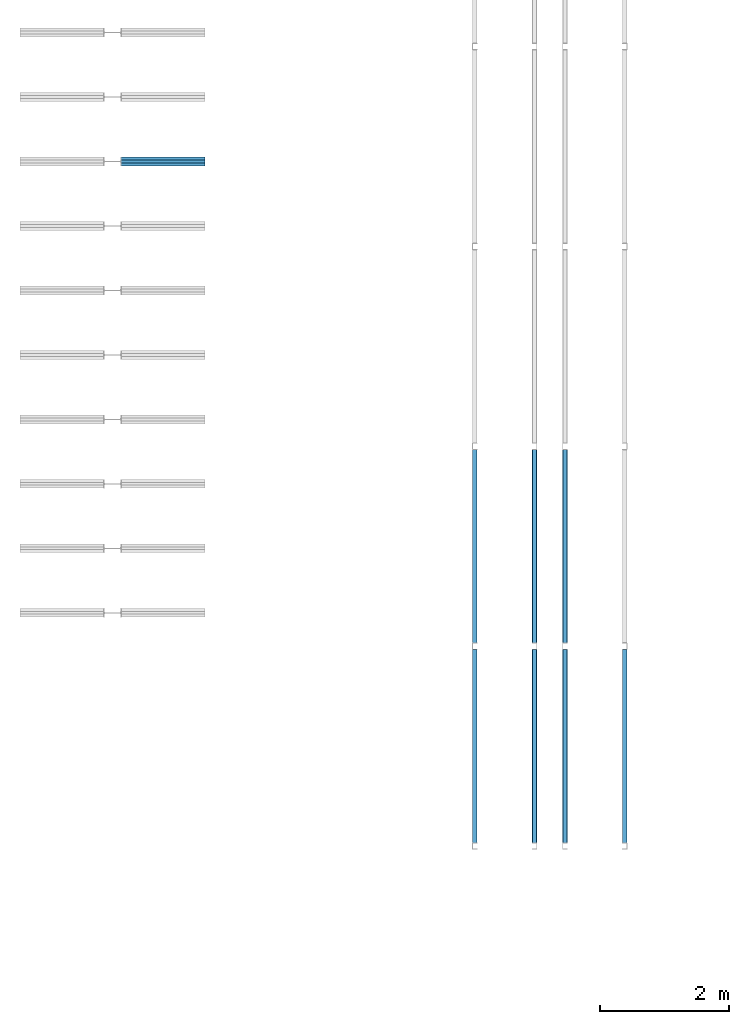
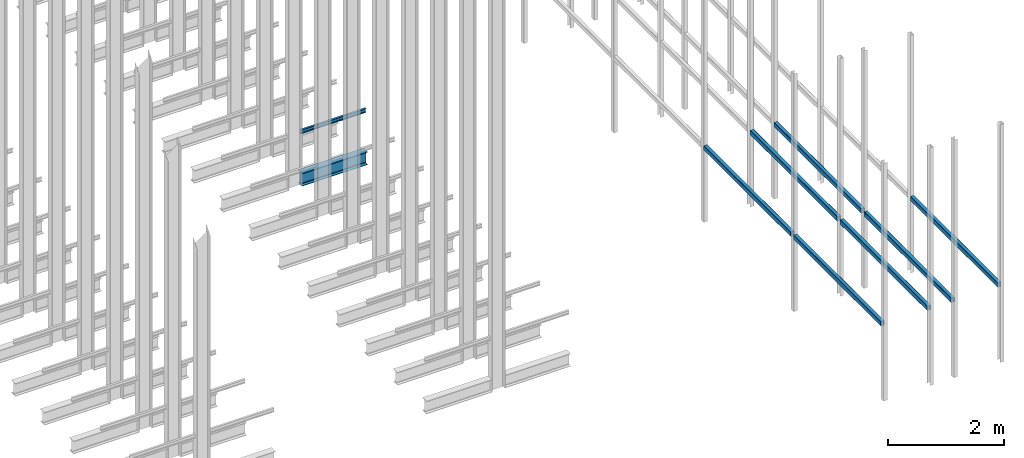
# One storey, part 163 of 302: 9 beams.
"""IFC2X3 building model written with IfcOpenShell, lengths in metres."""

from ifc_helpers import new_model, entity, si_unit, converted_unit, derived_unit, direction, frame, frame_2d, origin, place, context, subcontext, project, spatial, polyline, circle_curve, parameter, trimmed, segment, composite_curve, i_section, outline, extrude, material, type_object, element, save


model = new_model("IFC2X3")

# Units and contexts
model_context = context("Model", 3, precision=1e-05, world=origin(), true_north=direction((6.12303176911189e-17, 1.0)))
body_context = subcontext(model_context, "Body", "Model", "MODEL_VIEW")
ifc_project = project(units=[si_unit("LENGTHUNIT", "METRE"), si_unit("AREAUNIT", "SQUARE_METRE"), si_unit("VOLUMEUNIT", "CUBIC_METRE"), converted_unit("PLANEANGLEUNIT", "DEGREE", entity("IfcRatioMeasure", 0.0174532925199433), si_unit("PLANEANGLEUNIT", "RADIAN"), dimensions=[0, 0, 0, 0, 0, 0, 0]), si_unit("MASSUNIT", "GRAM", prefix="KILO"), derived_unit("MASSDENSITYUNIT", [(si_unit("MASSUNIT", "GRAM", prefix="KILO"), 1), (si_unit("LENGTHUNIT", "METRE"), -3)]), derived_unit("MOMENTOFINERTIAUNIT", [(si_unit("LENGTHUNIT", "METRE"), 4)]), si_unit("TIMEUNIT", "SECOND"), si_unit("FREQUENCYUNIT", "HERTZ"), si_unit("THERMODYNAMICTEMPERATUREUNIT", "DEGREE_CELSIUS"), derived_unit("THERMALTRANSMITTANCEUNIT", [(si_unit("MASSUNIT", "GRAM", prefix="KILO"), 1), (si_unit("THERMODYNAMICTEMPERATUREUNIT", "KELVIN"), -1), (si_unit("TIMEUNIT", "SECOND"), -3)]), derived_unit("VOLUMETRICFLOWRATEUNIT", [(si_unit("LENGTHUNIT", "METRE"), 3), (si_unit("TIMEUNIT", "SECOND"), -1)]), si_unit("ELECTRICCURRENTUNIT", "AMPERE"), si_unit("ELECTRICVOLTAGEUNIT", "VOLT"), si_unit("POWERUNIT", "WATT"), si_unit("FORCEUNIT", "NEWTON", prefix="KILO"), si_unit("ILLUMINANCEUNIT", "LUX"), si_unit("LUMINOUSFLUXUNIT", "LUMEN"), si_unit("LUMINOUSINTENSITYUNIT", "CANDELA"), derived_unit("USERDEFINED", [(si_unit("MASSUNIT", "GRAM", prefix="KILO"), -1), (si_unit("LENGTHUNIT", "METRE"), -2), (si_unit("TIMEUNIT", "SECOND"), 3), (si_unit("LUMINOUSFLUXUNIT", "LUMEN"), 1)]), derived_unit("LINEARVELOCITYUNIT", [(si_unit("LENGTHUNIT", "METRE"), 1), (si_unit("TIMEUNIT", "SECOND"), -1)]), si_unit("PRESSUREUNIT", "PASCAL"), derived_unit("USERDEFINED", [(si_unit("LENGTHUNIT", "METRE"), -2), (si_unit("MASSUNIT", "GRAM", prefix="KILO"), 1), (si_unit("TIMEUNIT", "SECOND"), -2)]), derived_unit("LINEARFORCEUNIT", [(si_unit("MASSUNIT", "GRAM", prefix="KILO"), 1), (si_unit("LENGTHUNIT", "METRE"), 1), (si_unit("TIMEUNIT", "SECOND"), -2), (si_unit("LENGTHUNIT", "METRE"), -1)]), derived_unit("PLANARFORCEUNIT", [(si_unit("MASSUNIT", "GRAM", prefix="KILO"), 1), (si_unit("LENGTHUNIT", "METRE"), 1), (si_unit("TIMEUNIT", "SECOND"), -2), (si_unit("LENGTHUNIT", "METRE"), -2)])], contexts=[model_context])

# Site, building, storey
site_placement = place(None, origin())
site = spatial("IfcSite", under=ifc_project, at=site_placement, Name="Default", CompositionType="ELEMENT")
building_placement = place(site_placement, origin())
building = spatial("IfcBuilding", under=site, at=building_placement, CompositionType="ELEMENT")
storey_placement = place(building_placement, frame((0.0, 0.0, -1.3)))
storey = spatial("IfcBuildingStorey", under=building, at=storey_placement, Name="00_EG", CompositionType="ELEMENT", Elevation=-1.3)

# Beams
ifc_material_1 = material(Name="Metall - Baustahl S235 blau")
beam_type_1 = type_object("IfcBeamType", Name="RHS Träger (EN 10219-2):RHS 100 x 75 x 5", PredefinedType="NOTDEFINED")
beam_1_placement = place(storey_placement, frame((-159.118311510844, 20.4480889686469, 2.885), z_axis=(0.0, 0.0, 1.0), x_axis=(0.0, 1.0, 0.0)))
element("IfcBeam", 1, at=beam_1_placement, inside=storey, type_object=beam_type_1, material=ifc_material_1, Name="RHS Träger (EN 10219-2):RHS 100 x 75 x 5", ObjectType="RHS Träger (EN 10219-2):RHS 100 x 75 x 5", context=body_context, shape_type="SweptSolid", body=[
    extrude(outline(composite_curve([segment(trimmed(circle_curve(frame_2d((-0.0274999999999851, -0.0400000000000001), x_axis=(1.0, 0.0)), 0.01), [parameter(180.0)], [parameter(270.0)], True, "PARAMETER"), True, "CONTINUOUS"), segment(polyline([(-0.0274999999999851, -0.05), (0.0274999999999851, -0.05)]), True, "CONTINUOUS"), segment(trimmed(circle_curve(frame_2d((0.0274999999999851, -0.0400000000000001), x_axis=(1.0, 0.0)), 0.01), [parameter(270.0)], [parameter(5.08888749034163e-14)], True, "PARAMETER"), True, "CONTINUOUS"), segment(polyline([(0.0375000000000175, -0.0399999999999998), (0.0375000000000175, 0.0400000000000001)]), True, "CONTINUOUS"), segment(trimmed(circle_curve(frame_2d((0.0274999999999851, 0.0399999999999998), x_axis=(1.0, 0.0)), 0.01), [parameter(360.0)], [parameter(89.9999999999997)], True, "PARAMETER"), True, "CONTINUOUS"), segment(polyline([(0.0274999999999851, 0.05), (-0.0274999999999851, 0.05)]), True, "CONTINUOUS"), segment(trimmed(circle_curve(frame_2d((-0.0274999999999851, 0.0399999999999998), x_axis=(1.0, 0.0)), 0.01), [parameter(90.0000000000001)], [parameter(180.0)], True, "PARAMETER"), True, "CONTINUOUS"), segment(polyline([(-0.0374999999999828, 0.0400000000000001), (-0.0374999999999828, -0.0399999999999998)]), True, "CONTINUOUS")], self_intersect=False), holes=[composite_curve([segment(polyline([(0.0274999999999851, -0.0450000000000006), (-0.0274999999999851, -0.0450000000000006)]), True, "CONTINUOUS"), segment(trimmed(circle_curve(frame_2d((-0.0274999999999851, -0.0400000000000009), x_axis=(1.0, 0.0)), 0.005), [parameter(180.0)], [parameter(270.0)], True, "PARAMETER"), False, "CONTINUOUS"), segment(polyline([(-0.0325000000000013, -0.0400000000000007), (-0.0325000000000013, 0.0399999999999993)]), True, "CONTINUOUS"), segment(trimmed(circle_curve(frame_2d((-0.0274999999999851, 0.039999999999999), x_axis=(1.0, 0.0)), 0.005), [parameter(90.0000000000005)], [parameter(180.0)], True, "PARAMETER"), False, "CONTINUOUS"), segment(polyline([(-0.0274999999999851, 0.0449999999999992), (0.0274999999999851, 0.0449999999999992)]), True, "CONTINUOUS"), segment(trimmed(circle_curve(frame_2d((0.0274999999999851, 0.039999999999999), x_axis=(1.0, 0.0)), 0.005), [parameter(0.0)], [parameter(90.0000000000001)], True, "PARAMETER"), False, "CONTINUOUS"), segment(polyline([(0.0325000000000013, 0.0399999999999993), (0.0325000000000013, -0.0400000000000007)]), True, "CONTINUOUS"), segment(trimmed(circle_curve(frame_2d((0.0274999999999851, -0.0400000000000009), x_axis=(1.0, 0.0)), 0.005), [parameter(270.0)], [parameter(4.07110999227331e-13)], True, "PARAMETER"), False, "CONTINUOUS")], self_intersect=False)]), frame((0.00010000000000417, 0.0375000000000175, -0.0500000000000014), z_axis=(1.0, 0.0, 0.0), x_axis=(0.0, -1.0, 0.0)), (0.0, 0.0, 1.0), 2.9998),
])
beam_2_placement = place(storey_placement, frame((-158.268311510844, 20.4480889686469, 2.885), z_axis=(0.0, 0.0, 1.0), x_axis=(0.0, 1.0, 0.0)))
element("IfcBeam", 2, at=beam_2_placement, inside=storey, type_object=beam_type_1, material=ifc_material_1, Name="RHS Träger (EN 10219-2):RHS 100 x 75 x 5", ObjectType="RHS Träger (EN 10219-2):RHS 100 x 75 x 5", context=body_context, shape_type="SweptSolid", body=[
    extrude(outline(composite_curve([segment(polyline([(-0.0399999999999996, -0.0375000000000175), (0.0400000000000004, -0.0375000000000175)]), True, "CONTINUOUS"), segment(trimmed(circle_curve(frame_2d((0.0400000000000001, -0.0275000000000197), x_axis=(0.0, 1.0)), 0.01), [parameter(180.0)], [parameter(270.0)], True, "PARAMETER"), True, "CONTINUOUS"), segment(polyline([(0.0500000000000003, -0.0275000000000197), (0.0500000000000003, 0.0274999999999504)]), True, "CONTINUOUS"), segment(trimmed(circle_curve(frame_2d((0.0400000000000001, 0.0274999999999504), x_axis=(0.0, 1.0)), 0.01), [parameter(270.0)], [parameter(4.07110999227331e-13)], True, "PARAMETER"), True, "CONTINUOUS"), segment(polyline([(0.0400000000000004, 0.0374999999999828), (-0.0399999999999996, 0.0374999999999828)]), True, "CONTINUOUS"), segment(trimmed(circle_curve(frame_2d((-0.0399999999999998, 0.0274999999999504), x_axis=(0.0, 1.0)), 0.01), [parameter(360.0)], [parameter(90.0000000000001)], True, "PARAMETER"), True, "CONTINUOUS"), segment(polyline([(-0.0499999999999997, 0.0274999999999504), (-0.0499999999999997, -0.0275000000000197)]), True, "CONTINUOUS"), segment(trimmed(circle_curve(frame_2d((-0.0399999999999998, -0.0275000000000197), x_axis=(0.0, 1.0)), 0.01), [parameter(90.0000000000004)], [parameter(180.0)], True, "PARAMETER"), True, "CONTINUOUS")], self_intersect=False), holes=[composite_curve([segment(trimmed(circle_curve(frame_2d((-0.0400000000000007, 0.0274999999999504), x_axis=(0.0, 1.0)), 0.005), [parameter(360.0)], [parameter(89.9999999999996)], True, "PARAMETER"), False, "CONTINUOUS"), segment(polyline([(-0.0400000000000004, 0.0324999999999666), (0.0399999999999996, 0.0324999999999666)]), True, "CONTINUOUS"), segment(trimmed(circle_curve(frame_2d((0.0399999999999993, 0.0274999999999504), x_axis=(0.0, 1.0)), 0.005), [parameter(270.0)], [parameter(0.0)], True, "PARAMETER"), False, "CONTINUOUS"), segment(polyline([(0.0449999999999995, 0.0274999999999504), (0.0449999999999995, -0.0275000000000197)]), True, "CONTINUOUS"), segment(trimmed(circle_curve(frame_2d((0.0399999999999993, -0.0275000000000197), x_axis=(0.0, 1.0)), 0.005), [parameter(180.0)], [parameter(269.999999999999)], True, "PARAMETER"), False, "CONTINUOUS"), segment(polyline([(0.0399999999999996, -0.0325000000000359), (-0.0400000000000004, -0.0325000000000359)]), True, "CONTINUOUS"), segment(trimmed(circle_curve(frame_2d((-0.0400000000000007, -0.0275000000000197), x_axis=(0.0, 1.0)), 0.005), [parameter(90.0000000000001)], [parameter(180.0)], True, "PARAMETER"), False, "CONTINUOUS"), segment(polyline([(-0.0450000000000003, -0.0275000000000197), (-0.0450000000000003, 0.0274999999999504)]), True, "CONTINUOUS")], self_intersect=False)]), frame((9.99999999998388e-05, -0.0374999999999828, -0.0500000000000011), z_axis=(1.0, 0.0, 0.0), x_axis=(0.0, 0.0, -1.0)), (0.0, 0.0, 1.0), 2.9998),
])
beam_3_placement = place(storey_placement, frame((-157.718311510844, 20.4480889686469, 2.885), z_axis=(0.0, 0.0, 1.0), x_axis=(0.0, 1.0, 0.0)))
element("IfcBeam", 3, at=beam_3_placement, inside=storey, type_object=beam_type_1, material=ifc_material_1, Name="RHS Träger (EN 10219-2):RHS 100 x 75 x 5", ObjectType="RHS Träger (EN 10219-2):RHS 100 x 75 x 5", context=body_context, shape_type="SweptSolid", body=[
    extrude(outline(composite_curve([segment(trimmed(circle_curve(frame_2d((-0.0274999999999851, -0.0400000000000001), x_axis=(1.0, 0.0)), 0.01), [parameter(180.0)], [parameter(270.0)], True, "PARAMETER"), True, "CONTINUOUS"), segment(polyline([(-0.0274999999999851, -0.05), (0.0274999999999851, -0.05)]), True, "CONTINUOUS"), segment(trimmed(circle_curve(frame_2d((0.0274999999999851, -0.0400000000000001), x_axis=(1.0, 0.0)), 0.01), [parameter(270.0)], [parameter(5.08888749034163e-14)], True, "PARAMETER"), True, "CONTINUOUS"), segment(polyline([(0.0375000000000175, -0.0399999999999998), (0.0375000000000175, 0.0400000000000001)]), True, "CONTINUOUS"), segment(trimmed(circle_curve(frame_2d((0.0274999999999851, 0.0399999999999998), x_axis=(1.0, 0.0)), 0.01), [parameter(360.0)], [parameter(89.9999999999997)], True, "PARAMETER"), True, "CONTINUOUS"), segment(polyline([(0.0274999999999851, 0.05), (-0.0274999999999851, 0.05)]), True, "CONTINUOUS"), segment(trimmed(circle_curve(frame_2d((-0.0274999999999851, 0.0399999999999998), x_axis=(1.0, 0.0)), 0.01), [parameter(90.0000000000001)], [parameter(180.0)], True, "PARAMETER"), True, "CONTINUOUS"), segment(polyline([(-0.0374999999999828, 0.0400000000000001), (-0.0374999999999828, -0.0399999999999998)]), True, "CONTINUOUS")], self_intersect=False), holes=[composite_curve([segment(polyline([(0.0274999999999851, -0.0450000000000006), (-0.0274999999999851, -0.0450000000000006)]), True, "CONTINUOUS"), segment(trimmed(circle_curve(frame_2d((-0.0274999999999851, -0.0400000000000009), x_axis=(1.0, 0.0)), 0.005), [parameter(180.0)], [parameter(270.0)], True, "PARAMETER"), False, "CONTINUOUS"), segment(polyline([(-0.0325000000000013, -0.0400000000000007), (-0.0325000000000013, 0.0399999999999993)]), True, "CONTINUOUS"), segment(trimmed(circle_curve(frame_2d((-0.0274999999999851, 0.039999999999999), x_axis=(1.0, 0.0)), 0.005), [parameter(90.0000000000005)], [parameter(180.0)], True, "PARAMETER"), False, "CONTINUOUS"), segment(polyline([(-0.0274999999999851, 0.0449999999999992), (0.0274999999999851, 0.0449999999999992)]), True, "CONTINUOUS"), segment(trimmed(circle_curve(frame_2d((0.0274999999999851, 0.039999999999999), x_axis=(1.0, 0.0)), 0.005), [parameter(0.0)], [parameter(90.0000000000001)], True, "PARAMETER"), False, "CONTINUOUS"), segment(polyline([(0.0325000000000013, 0.0399999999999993), (0.0325000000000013, -0.0400000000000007)]), True, "CONTINUOUS"), segment(trimmed(circle_curve(frame_2d((0.0274999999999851, -0.0400000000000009), x_axis=(1.0, 0.0)), 0.005), [parameter(270.0)], [parameter(4.07110999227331e-13)], True, "PARAMETER"), False, "CONTINUOUS")], self_intersect=False)]), frame((0.00010000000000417, 0.0375000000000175, -0.0500000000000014), z_axis=(1.0, 0.0, 0.0), x_axis=(0.0, -1.0, 0.0)), (0.0, 0.0, 1.0), 2.9998),
])
beam_4_placement = place(storey_placement, frame((-156.868311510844, 20.4480889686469, 2.885), z_axis=(0.0, 0.0, 1.0), x_axis=(0.0, 1.0, 0.0)))
element("IfcBeam", 4, at=beam_4_placement, inside=storey, type_object=beam_type_1, material=ifc_material_1, Name="RHS Träger (EN 10219-2):RHS 100 x 75 x 5", ObjectType="RHS Träger (EN 10219-2):RHS 100 x 75 x 5", context=body_context, shape_type="SweptSolid", body=[
    extrude(outline(composite_curve([segment(polyline([(-0.0399999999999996, -0.0374999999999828), (0.0400000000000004, -0.0374999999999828)]), True, "CONTINUOUS"), segment(trimmed(circle_curve(frame_2d((0.0400000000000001, -0.0274999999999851), x_axis=(0.0, 1.0)), 0.01), [parameter(180.0)], [parameter(270.0)], True, "PARAMETER"), True, "CONTINUOUS"), segment(polyline([(0.0500000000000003, -0.0274999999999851), (0.0500000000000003, 0.0274999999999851)]), True, "CONTINUOUS"), segment(trimmed(circle_curve(frame_2d((0.0400000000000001, 0.0274999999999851), x_axis=(0.0, 1.0)), 0.01), [parameter(270.0)], [parameter(4.07110999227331e-13)], True, "PARAMETER"), True, "CONTINUOUS"), segment(polyline([(0.0400000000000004, 0.0375000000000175), (-0.0399999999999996, 0.0375000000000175)]), True, "CONTINUOUS"), segment(trimmed(circle_curve(frame_2d((-0.0399999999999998, 0.0274999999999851), x_axis=(0.0, 1.0)), 0.01), [parameter(360.0)], [parameter(90.0000000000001)], True, "PARAMETER"), True, "CONTINUOUS"), segment(polyline([(-0.0499999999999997, 0.0274999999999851), (-0.0499999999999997, -0.0274999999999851)]), True, "CONTINUOUS"), segment(trimmed(circle_curve(frame_2d((-0.0399999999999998, -0.0274999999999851), x_axis=(0.0, 1.0)), 0.01), [parameter(90.0000000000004)], [parameter(180.0)], True, "PARAMETER"), True, "CONTINUOUS")], self_intersect=False), holes=[composite_curve([segment(trimmed(circle_curve(frame_2d((-0.0400000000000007, 0.0274999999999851), x_axis=(0.0, 1.0)), 0.005), [parameter(360.0)], [parameter(89.9999999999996)], True, "PARAMETER"), False, "CONTINUOUS"), segment(polyline([(-0.0400000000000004, 0.0325000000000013), (0.0399999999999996, 0.0325000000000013)]), True, "CONTINUOUS"), segment(trimmed(circle_curve(frame_2d((0.0399999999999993, 0.0274999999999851), x_axis=(0.0, 1.0)), 0.005), [parameter(270.0)], [parameter(0.0)], True, "PARAMETER"), False, "CONTINUOUS"), segment(polyline([(0.0449999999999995, 0.0274999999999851), (0.0449999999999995, -0.0274999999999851)]), True, "CONTINUOUS"), segment(trimmed(circle_curve(frame_2d((0.0399999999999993, -0.0274999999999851), x_axis=(0.0, 1.0)), 0.005), [parameter(180.0)], [parameter(269.999999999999)], True, "PARAMETER"), False, "CONTINUOUS"), segment(polyline([(0.0399999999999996, -0.0325000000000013), (-0.0400000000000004, -0.0325000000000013)]), True, "CONTINUOUS"), segment(trimmed(circle_curve(frame_2d((-0.0400000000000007, -0.0274999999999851), x_axis=(0.0, 1.0)), 0.005), [parameter(90.0000000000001)], [parameter(180.0)], True, "PARAMETER"), False, "CONTINUOUS"), segment(polyline([(-0.0450000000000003, -0.0274999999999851), (-0.0450000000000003, 0.0274999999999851)]), True, "CONTINUOUS")], self_intersect=False)]), frame((9.99999999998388e-05, -0.0375000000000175, -0.0500000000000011), z_axis=(1.0, 0.0, 0.0), x_axis=(0.0, 0.0, -1.0)), (0.0, 0.0, 1.0), 2.9998),
])
beam_5_placement = place(storey_placement, frame((-159.118311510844, 23.5480889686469, 2.885), z_axis=(0.0, 0.0, 1.0), x_axis=(0.0, 1.0, 0.0)))
element("IfcBeam", 5, at=beam_5_placement, inside=storey, type_object=beam_type_1, material=ifc_material_1, Name="RHS Träger (EN 10219-2):RHS 100 x 75 x 5", ObjectType="RHS Träger (EN 10219-2):RHS 100 x 75 x 5", context=body_context, shape_type="SweptSolid", body=[
    extrude(outline(composite_curve([segment(trimmed(circle_curve(frame_2d((-0.0274999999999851, -0.0400000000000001), x_axis=(1.0, 0.0)), 0.01), [parameter(180.0)], [parameter(270.0)], True, "PARAMETER"), True, "CONTINUOUS"), segment(polyline([(-0.0274999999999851, -0.05), (0.0274999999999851, -0.05)]), True, "CONTINUOUS"), segment(trimmed(circle_curve(frame_2d((0.0274999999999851, -0.0400000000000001), x_axis=(1.0, 0.0)), 0.01), [parameter(270.0)], [parameter(5.08888749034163e-14)], True, "PARAMETER"), True, "CONTINUOUS"), segment(polyline([(0.0375000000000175, -0.0399999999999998), (0.0375000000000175, 0.0400000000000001)]), True, "CONTINUOUS"), segment(trimmed(circle_curve(frame_2d((0.0274999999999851, 0.0399999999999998), x_axis=(1.0, 0.0)), 0.01), [parameter(360.0)], [parameter(89.9999999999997)], True, "PARAMETER"), True, "CONTINUOUS"), segment(polyline([(0.0274999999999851, 0.05), (-0.0274999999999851, 0.05)]), True, "CONTINUOUS"), segment(trimmed(circle_curve(frame_2d((-0.0274999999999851, 0.0399999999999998), x_axis=(1.0, 0.0)), 0.01), [parameter(90.0000000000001)], [parameter(180.0)], True, "PARAMETER"), True, "CONTINUOUS"), segment(polyline([(-0.0374999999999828, 0.0400000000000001), (-0.0374999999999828, -0.0399999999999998)]), True, "CONTINUOUS")], self_intersect=False), holes=[composite_curve([segment(polyline([(0.0274999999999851, -0.0450000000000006), (-0.0274999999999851, -0.0450000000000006)]), True, "CONTINUOUS"), segment(trimmed(circle_curve(frame_2d((-0.0274999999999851, -0.0400000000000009), x_axis=(1.0, 0.0)), 0.005), [parameter(180.0)], [parameter(270.0)], True, "PARAMETER"), False, "CONTINUOUS"), segment(polyline([(-0.0325000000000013, -0.0400000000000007), (-0.0325000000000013, 0.0399999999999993)]), True, "CONTINUOUS"), segment(trimmed(circle_curve(frame_2d((-0.0274999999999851, 0.039999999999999), x_axis=(1.0, 0.0)), 0.005), [parameter(90.0000000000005)], [parameter(180.0)], True, "PARAMETER"), False, "CONTINUOUS"), segment(polyline([(-0.0274999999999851, 0.0449999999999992), (0.0274999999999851, 0.0449999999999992)]), True, "CONTINUOUS"), segment(trimmed(circle_curve(frame_2d((0.0274999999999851, 0.039999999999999), x_axis=(1.0, 0.0)), 0.005), [parameter(0.0)], [parameter(90.0000000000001)], True, "PARAMETER"), False, "CONTINUOUS"), segment(polyline([(0.0325000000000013, 0.0399999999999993), (0.0325000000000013, -0.0400000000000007)]), True, "CONTINUOUS"), segment(trimmed(circle_curve(frame_2d((0.0274999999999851, -0.0400000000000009), x_axis=(1.0, 0.0)), 0.005), [parameter(270.0)], [parameter(4.07110999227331e-13)], True, "PARAMETER"), False, "CONTINUOUS")], self_intersect=False)]), frame((0.00010000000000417, 0.0375000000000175, -0.0500000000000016), z_axis=(1.0, 0.0, 0.0), x_axis=(0.0, -1.0, 0.0)), (0.0, 0.0, 1.0), 2.9998),
])
beam_6_placement = place(storey_placement, frame((-158.268311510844, 23.5480889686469, 2.885), z_axis=(0.0, 0.0, 1.0), x_axis=(0.0, 1.0, 0.0)))
element("IfcBeam", 6, at=beam_6_placement, inside=storey, type_object=beam_type_1, material=ifc_material_1, Name="RHS Träger (EN 10219-2):RHS 100 x 75 x 5", ObjectType="RHS Träger (EN 10219-2):RHS 100 x 75 x 5", context=body_context, shape_type="SweptSolid", body=[
    extrude(outline(composite_curve([segment(polyline([(-0.0399999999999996, -0.0375000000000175), (0.0400000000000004, -0.0375000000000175)]), True, "CONTINUOUS"), segment(trimmed(circle_curve(frame_2d((0.0400000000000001, -0.0275000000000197), x_axis=(0.0, 1.0)), 0.01), [parameter(180.0)], [parameter(270.0)], True, "PARAMETER"), True, "CONTINUOUS"), segment(polyline([(0.0500000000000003, -0.0275000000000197), (0.0500000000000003, 0.0274999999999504)]), True, "CONTINUOUS"), segment(trimmed(circle_curve(frame_2d((0.0400000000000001, 0.0274999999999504), x_axis=(0.0, 1.0)), 0.01), [parameter(270.0)], [parameter(4.07110999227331e-13)], True, "PARAMETER"), True, "CONTINUOUS"), segment(polyline([(0.0400000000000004, 0.0374999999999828), (-0.0399999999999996, 0.0374999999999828)]), True, "CONTINUOUS"), segment(trimmed(circle_curve(frame_2d((-0.0399999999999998, 0.0274999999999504), x_axis=(0.0, 1.0)), 0.01), [parameter(360.0)], [parameter(90.0000000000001)], True, "PARAMETER"), True, "CONTINUOUS"), segment(polyline([(-0.0499999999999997, 0.0274999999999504), (-0.0499999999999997, -0.0275000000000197)]), True, "CONTINUOUS"), segment(trimmed(circle_curve(frame_2d((-0.0399999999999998, -0.0275000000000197), x_axis=(0.0, 1.0)), 0.01), [parameter(90.0000000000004)], [parameter(180.0)], True, "PARAMETER"), True, "CONTINUOUS")], self_intersect=False), holes=[composite_curve([segment(trimmed(circle_curve(frame_2d((-0.0400000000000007, 0.0274999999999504), x_axis=(0.0, 1.0)), 0.005), [parameter(360.0)], [parameter(89.9999999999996)], True, "PARAMETER"), False, "CONTINUOUS"), segment(polyline([(-0.0400000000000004, 0.0324999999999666), (0.0399999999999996, 0.0324999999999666)]), True, "CONTINUOUS"), segment(trimmed(circle_curve(frame_2d((0.0399999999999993, 0.0274999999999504), x_axis=(0.0, 1.0)), 0.005), [parameter(270.0)], [parameter(0.0)], True, "PARAMETER"), False, "CONTINUOUS"), segment(polyline([(0.0449999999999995, 0.0274999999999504), (0.0449999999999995, -0.0275000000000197)]), True, "CONTINUOUS"), segment(trimmed(circle_curve(frame_2d((0.0399999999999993, -0.0275000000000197), x_axis=(0.0, 1.0)), 0.005), [parameter(180.0)], [parameter(269.999999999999)], True, "PARAMETER"), False, "CONTINUOUS"), segment(polyline([(0.0399999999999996, -0.0325000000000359), (-0.0400000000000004, -0.0325000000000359)]), True, "CONTINUOUS"), segment(trimmed(circle_curve(frame_2d((-0.0400000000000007, -0.0275000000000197), x_axis=(0.0, 1.0)), 0.005), [parameter(90.0000000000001)], [parameter(180.0)], True, "PARAMETER"), False, "CONTINUOUS"), segment(polyline([(-0.0450000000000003, -0.0275000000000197), (-0.0450000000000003, 0.0274999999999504)]), True, "CONTINUOUS")], self_intersect=False)]), frame((0.00010000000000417, -0.0374999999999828, -0.0500000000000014), z_axis=(1.0, 0.0, 0.0), x_axis=(0.0, 0.0, -1.0)), (0.0, 0.0, 1.0), 2.9998),
])
beam_7_placement = place(storey_placement, frame((-157.718311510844, 23.5480889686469, 2.885), z_axis=(0.0, 0.0, 1.0), x_axis=(0.0, 1.0, 0.0)))
element("IfcBeam", 7, at=beam_7_placement, inside=storey, type_object=beam_type_1, material=ifc_material_1, Name="RHS Träger (EN 10219-2):RHS 100 x 75 x 5", ObjectType="RHS Träger (EN 10219-2):RHS 100 x 75 x 5", context=body_context, shape_type="SweptSolid", body=[
    extrude(outline(composite_curve([segment(trimmed(circle_curve(frame_2d((-0.0274999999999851, -0.0400000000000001), x_axis=(1.0, 0.0)), 0.01), [parameter(180.0)], [parameter(270.0)], True, "PARAMETER"), True, "CONTINUOUS"), segment(polyline([(-0.0274999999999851, -0.05), (0.0274999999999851, -0.05)]), True, "CONTINUOUS"), segment(trimmed(circle_curve(frame_2d((0.0274999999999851, -0.0400000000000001), x_axis=(1.0, 0.0)), 0.01), [parameter(270.0)], [parameter(5.08888749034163e-14)], True, "PARAMETER"), True, "CONTINUOUS"), segment(polyline([(0.0375000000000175, -0.0399999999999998), (0.0375000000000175, 0.0400000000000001)]), True, "CONTINUOUS"), segment(trimmed(circle_curve(frame_2d((0.0274999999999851, 0.0399999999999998), x_axis=(1.0, 0.0)), 0.01), [parameter(360.0)], [parameter(89.9999999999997)], True, "PARAMETER"), True, "CONTINUOUS"), segment(polyline([(0.0274999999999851, 0.05), (-0.0274999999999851, 0.05)]), True, "CONTINUOUS"), segment(trimmed(circle_curve(frame_2d((-0.0274999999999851, 0.0399999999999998), x_axis=(1.0, 0.0)), 0.01), [parameter(90.0000000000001)], [parameter(180.0)], True, "PARAMETER"), True, "CONTINUOUS"), segment(polyline([(-0.0374999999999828, 0.0400000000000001), (-0.0374999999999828, -0.0399999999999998)]), True, "CONTINUOUS")], self_intersect=False), holes=[composite_curve([segment(polyline([(0.0274999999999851, -0.0450000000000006), (-0.0274999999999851, -0.0450000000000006)]), True, "CONTINUOUS"), segment(trimmed(circle_curve(frame_2d((-0.0274999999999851, -0.0400000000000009), x_axis=(1.0, 0.0)), 0.005), [parameter(180.0)], [parameter(270.0)], True, "PARAMETER"), False, "CONTINUOUS"), segment(polyline([(-0.0325000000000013, -0.0400000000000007), (-0.0325000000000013, 0.0399999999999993)]), True, "CONTINUOUS"), segment(trimmed(circle_curve(frame_2d((-0.0274999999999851, 0.039999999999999), x_axis=(1.0, 0.0)), 0.005), [parameter(90.0000000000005)], [parameter(180.0)], True, "PARAMETER"), False, "CONTINUOUS"), segment(polyline([(-0.0274999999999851, 0.0449999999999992), (0.0274999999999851, 0.0449999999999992)]), True, "CONTINUOUS"), segment(trimmed(circle_curve(frame_2d((0.0274999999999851, 0.039999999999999), x_axis=(1.0, 0.0)), 0.005), [parameter(0.0)], [parameter(90.0000000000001)], True, "PARAMETER"), False, "CONTINUOUS"), segment(polyline([(0.0325000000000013, 0.0399999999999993), (0.0325000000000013, -0.0400000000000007)]), True, "CONTINUOUS"), segment(trimmed(circle_curve(frame_2d((0.0274999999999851, -0.0400000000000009), x_axis=(1.0, 0.0)), 0.005), [parameter(270.0)], [parameter(4.07110999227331e-13)], True, "PARAMETER"), False, "CONTINUOUS")], self_intersect=False)]), frame((0.00010000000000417, 0.0375000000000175, -0.0500000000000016), z_axis=(1.0, 0.0, 0.0), x_axis=(0.0, -1.0, 0.0)), (0.0, 0.0, 1.0), 2.9998),
])
ifc_material_2 = material(Name="Metall - Baustahl S235")
beam_type_2 = type_object("IfcBeamType", Name="IPN Träger:IPN 80", PredefinedType="NOTDEFINED")
beam_8_placement = place(storey_placement, frame((-164.640111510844, 30.994588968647, 2.42)))
element("IfcBeam", 8, at=beam_8_placement, inside=storey, type_object=beam_type_2, material=ifc_material_2, Name="IPN Träger:IPN 80", ObjectType="IPN Träger:IPN 80", context=body_context, shape_type="SweptSolid", body=[
    extrude(outline(composite_curve([segment(polyline([(0.0375704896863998, -0.0210000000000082), (0.0399999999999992, -0.0210000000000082)]), True, "CONTINUOUS"), segment(polyline([(0.0399999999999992, -0.0210000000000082), (0.0399999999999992, 0.0209999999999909)]), True, "CONTINUOUS"), segment(polyline([(0.039999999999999, 0.0209999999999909), (0.037570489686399, 0.0209999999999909)]), True, "CONTINUOUS"), segment(trimmed(circle_curve(frame_2d((0.037570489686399, 0.0186999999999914), x_axis=(0.0, 1.0)), 0.00230000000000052), [parameter(0.0)], [parameter(82.0299999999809)], True, "PARAMETER"), True, "CONTINUOUS"), segment(polyline([(0.0352927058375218, 0.019018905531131), (0.0333732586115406, 0.00530924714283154)]), True, "CONTINUOUS"), segment(trimmed(circle_curve(frame_2d((0.0295109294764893, 0.00584999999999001), x_axis=(0.990340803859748, -0.138654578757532)), 0.00389999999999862), [parameter(277.969999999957)], [parameter(0.0)], True, "PARAMETER"), False, "CONTINUOUS"), segment(polyline([(0.0295109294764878, 0.00194999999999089), (-0.0295109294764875, 0.00194999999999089)]), True, "CONTINUOUS"), segment(trimmed(circle_curve(frame_2d((-0.029510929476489, 0.00584999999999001), x_axis=(0.0, -1.0)), 0.00389999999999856), [parameter(277.969999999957)], [parameter(0.0)], True, "PARAMETER"), False, "CONTINUOUS"), segment(polyline([(-0.0333732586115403, 0.00530924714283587), (-0.0352927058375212, 0.0190189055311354)]), True, "CONTINUOUS"), segment(trimmed(circle_curve(frame_2d((-0.0375704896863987, 0.0186999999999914), x_axis=(0.990340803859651, 0.138654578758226)), 0.00230000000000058), [parameter(0.0)], [parameter(82.029999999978)], True, "PARAMETER"), True, "CONTINUOUS"), segment(polyline([(-0.0375704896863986, 0.0209999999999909), (-0.0400000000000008, 0.0209999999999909)]), True, "CONTINUOUS"), segment(polyline([(-0.0400000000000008, 0.0209999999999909), (-0.0400000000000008, -0.0210000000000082)]), True, "CONTINUOUS"), segment(polyline([(-0.0400000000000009, -0.0210000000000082), (-0.037570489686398, -0.0210000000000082)]), True, "CONTINUOUS"), segment(trimmed(circle_curve(frame_2d((-0.0375704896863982, -0.0187000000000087), x_axis=(0.0, -1.0)), 0.00230000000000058), [parameter(0.0)], [parameter(82.029999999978)], True, "PARAMETER"), True, "CONTINUOUS"), segment(polyline([(-0.0352927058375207, -0.0190189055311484), (-0.0333732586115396, -0.0053092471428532)]), True, "CONTINUOUS"), segment(trimmed(circle_curve(frame_2d((-0.0295109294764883, -0.00585000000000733), x_axis=(-0.990340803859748, 0.138654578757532)), 0.00389999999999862), [parameter(277.969999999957)], [parameter(0.0)], True, "PARAMETER"), False, "CONTINUOUS"), segment(polyline([(-0.0295109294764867, -0.00195000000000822), (0.0295109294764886, -0.00195000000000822)]), True, "CONTINUOUS"), segment(trimmed(circle_curve(frame_2d((0.0295109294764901, -0.00585000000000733), x_axis=(0.0, 1.0)), 0.00389999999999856), [parameter(277.969999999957)], [parameter(0.0)], True, "PARAMETER"), False, "CONTINUOUS"), segment(polyline([(0.0333732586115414, -0.0053092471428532), (0.0352927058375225, -0.0190189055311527)]), True, "CONTINUOUS"), segment(trimmed(circle_curve(frame_2d((0.0375704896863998, -0.0187000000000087), x_axis=(-0.990340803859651, -0.138654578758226)), 0.00230000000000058), [parameter(0.0)], [parameter(82.029999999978)], True, "PARAMETER"), True, "CONTINUOUS")], self_intersect=False)), frame((9.99999999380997e-05, 0.0210000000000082, -0.0400000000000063), z_axis=(1.0, 0.0, 0.0), x_axis=(0.0, 0.0, -1.0)), (0.0, 0.0, 1.0), 1.29990000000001),
])
beam_type_3 = type_object("IfcBeamType", Name="IPE Träger:IPE 270", PredefinedType="NOTDEFINED")
beam_9_placement = place(storey_placement, frame((-164.640111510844, 31.083088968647, 1.54000000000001)))
element("IfcBeam", 9, at=beam_9_placement, inside=storey, type_object=beam_type_3, material=ifc_material_2, Name="IPE Träger:IPE 270", ObjectType="IPE Träger:IPE 270", context=body_context, shape_type="SweptSolid", body=[
    extrude(i_section(OverallWidth=0.134999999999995, OverallDepth=0.27, WebThickness=0.00660000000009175, FlangeThickness=0.0102000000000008, FilletRadius=0.0150000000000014, at=frame_2d((5.96744875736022e-16, -2.16493489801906e-15), x_axis=(0.0, 1.0))), frame((9.99999999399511e-05, -0.0674999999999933, -0.135000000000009), z_axis=(1.0, 0.0, 0.0), x_axis=(0.0, 0.0, -1.0)), (0.0, 0.0, 1.0), 1.29990000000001),
])

save(model, "model.ifc")
